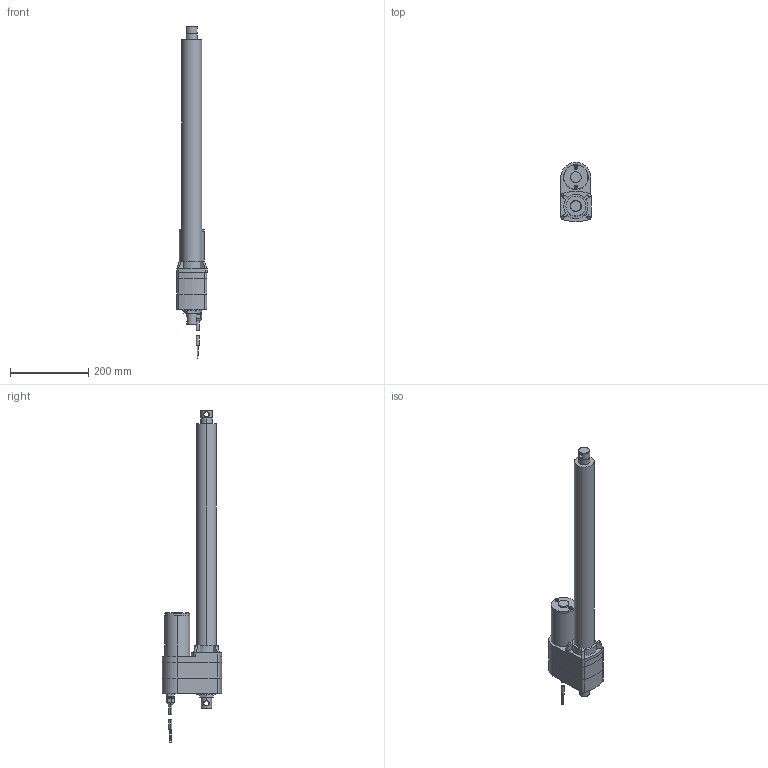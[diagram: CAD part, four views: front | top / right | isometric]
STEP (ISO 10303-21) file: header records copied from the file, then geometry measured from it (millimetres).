
FILE_DESCRIPTION (( 'STEP AP203' ), '1' );
FILE_NAME ('LA5_ACME_18.step', '2021-02-24T15:18:04', ( '' ), ( '' ), 'SwSTEP 2.0', 'SolidWorks 2017', '' );
FILE_SCHEMA (( 'CONFIG_CONTROL_DESIGN' ));
Length unit declared in the file: millimetre
Products named in the file (1): LA5_ACME_18
Bounding box: 77.22 x 151.29 x 847.55 mm (x, y, z)
Volume: 2686881.2 mm3; surface area: 253053.5 mm2
Topology: 14 solids, 14 shells, 315 faces, 680 edges, 422 vertices
Faces by surface type: plane 154, cylinder 101, cone 24, bspline 22, torus 10, sphere 4
Entity records: 10570 total; most frequent: CARTESIAN_POINT 3606, DIRECTION 1477, ORIENTED_EDGE 1360, EDGE_CURVE 680, AXIS2_PLACEMENT_3D 573, VERTEX_POINT 422, EDGE_LOOP 352, VECTOR 331
